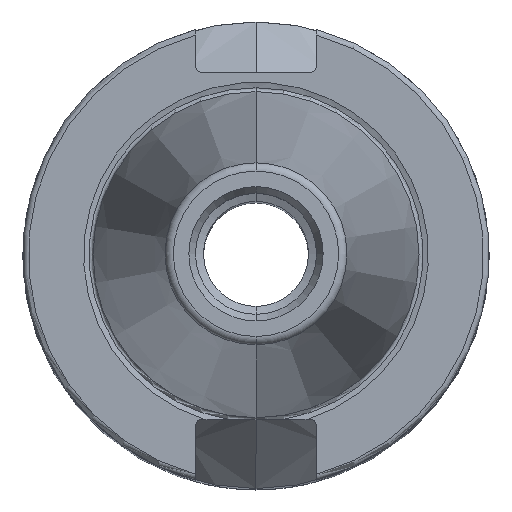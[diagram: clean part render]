
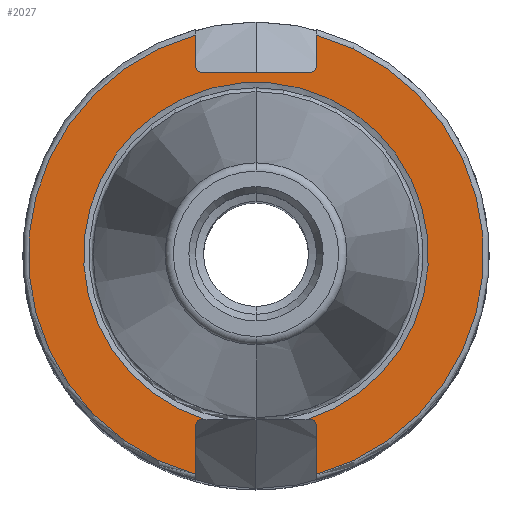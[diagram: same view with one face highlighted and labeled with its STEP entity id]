
A CAD part, top view. The second image highlights one B-rep face of the part: STEP entity #2027.
In plain terms, the highlighted planar face has unit normal (0, 0, 1).
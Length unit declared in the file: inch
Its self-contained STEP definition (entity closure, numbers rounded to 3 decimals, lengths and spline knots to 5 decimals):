
#85 = CIRCLE ( 'NONE', #4367, 0.03 ) ;
#106 = FACE_OUTER_BOUND ( 'NONE', #4018, .T. ) ;
#112 = EDGE_CURVE ( 'NONE', #1542, #4993, #1231, .T. ) ;
#188 = CARTESIAN_POINT ( 'NONE',  ( -0.3225, -1.1766, -0.125 ) ) ;
#256 = ORIENTED_EDGE ( 'NONE', *, *, #1767, .F. ) ;
#297 = EDGE_CURVE ( 'NONE', #4993, #3620, #3671, .T. ) ;
#310 = CARTESIAN_POINT ( 'NONE',  ( 0., 0., -0.125 ) ) ;
#319 = CARTESIAN_POINT ( 'NONE',  ( 0.2925, 1.0075, -0.125 ) ) ;
#401 = EDGE_CURVE ( 'NONE', #3992, #1946, #1800, .T. ) ;
#475 = DIRECTION ( 'NONE',  ( 1., 0., 0. ) ) ;
#481 = CARTESIAN_POINT ( 'NONE',  ( 0., 0., -0.125 ) ) ;
#489 = CARTESIAN_POINT ( 'NONE',  ( 0.27356, -0.8825, -0.125 ) ) ;
#492 = ORIENTED_EDGE ( 'NONE', *, *, #1841, .T. ) ;
#532 = DIRECTION ( 'NONE',  ( 0., -1., 0. ) ) ;
#564 = EDGE_CURVE ( 'NONE', #3975, #2349, #3396, .T. ) ;
#618 = DIRECTION ( 'NONE',  ( 0., 0., -1. ) ) ;
#626 = DIRECTION ( 'NONE',  ( 0., -1., 0. ) ) ;
#641 = DIRECTION ( 'NONE',  ( 0., -1., 0. ) ) ;
#655 = VERTEX_POINT ( 'NONE', #1506 ) ;
#671 = DIRECTION ( 'NONE',  ( 0., -1., 0. ) ) ;
#789 = CARTESIAN_POINT ( 'NONE',  ( 0.3225, -1.1766, -0.125 ) ) ;
#817 = CARTESIAN_POINT ( 'NONE',  ( -0.3225, 1.1766, -0.125 ) ) ;
#870 = AXIS2_PLACEMENT_3D ( 'NONE', #481, #953, #1394 ) ;
#877 = VECTOR ( 'NONE', #475, 39.37008 ) ;
#881 = VECTOR ( 'NONE', #3031, 39.37008 ) ;
#953 = DIRECTION ( 'NONE',  ( 0., 0., -1. ) ) ;
#1014 = VECTOR ( 'NONE', #2821, 39.37008 ) ;
#1174 = DIRECTION ( 'NONE',  ( 0., 1., 0. ) ) ;
#1179 = ORIENTED_EDGE ( 'NONE', *, *, #2967, .T. ) ;
#1210 = CARTESIAN_POINT ( 'NONE',  ( -0.3225, -0.9125, -0.125 ) ) ;
#1220 = CIRCLE ( 'NONE', #3362, 0.92393 ) ;
#1231 = LINE ( 'NONE', #3220, #1014 ) ;
#1293 = AXIS2_PLACEMENT_3D ( 'NONE', #1765, #3406, #532 ) ;
#1363 = DIRECTION ( 'NONE',  ( 0., 1., 0. ) ) ;
#1394 = DIRECTION ( 'NONE',  ( 0., 1., 0. ) ) ;
#1420 = LINE ( 'NONE', #2737, #3870 ) ;
#1456 = LINE ( 'NONE', #3448, #881 ) ;
#1474 = LINE ( 'NONE', #2687, #1489 ) ;
#1489 = VECTOR ( 'NONE', #626, 39.37008 ) ;
#1506 = CARTESIAN_POINT ( 'NONE',  ( 0.2925, 0.9775, -0.125 ) ) ;
#1542 = VERTEX_POINT ( 'NONE', #489 ) ;
#1631 = DIRECTION ( 'NONE',  ( 0., -1., 0. ) ) ;
#1684 = LINE ( 'NONE', #2116, #877 ) ;
#1717 = DIRECTION ( 'NONE',  ( 0., 0., -1. ) ) ;
#1734 = CARTESIAN_POINT ( 'NONE',  ( -0.2925, -0.9125, -0.125 ) ) ;
#1765 = CARTESIAN_POINT ( 'NONE',  ( 1.22, 0., -0.125 ) ) ;
#1767 = EDGE_CURVE ( 'NONE', #2349, #2665, #4375, .T. ) ;
#1800 = CIRCLE ( 'NONE', #4959, 1.22 ) ;
#1829 = EDGE_CURVE ( 'NONE', #3992, #5112, #3414, .T. ) ;
#1841 = EDGE_CURVE ( 'NONE', #3620, #2665, #1420, .T. ) ;
#1946 = VERTEX_POINT ( 'NONE', #817 ) ;
#1991 = EDGE_CURVE ( 'NONE', #2886, #655, #1684, .T. ) ;
#2000 = CIRCLE ( 'NONE', #4814, 0.03 ) ;
#2027 = ADVANCED_FACE ( 'NONE', ( #106 ), #3714, .T. ) ;
#2036 = DIRECTION ( 'NONE',  ( 0., 0., -1. ) ) ;
#2116 = CARTESIAN_POINT ( 'NONE',  ( 1.22, 0.9775, -0.125 ) ) ;
#2126 = DIRECTION ( 'NONE',  ( 0., -1., 0. ) ) ;
#2169 = CARTESIAN_POINT ( 'NONE',  ( 0.3225, -0.9125, -0.125 ) ) ;
#2171 = CARTESIAN_POINT ( 'NONE',  ( -0.27356, -0.8825, -0.125 ) ) ;
#2183 = CIRCLE ( 'NONE', #3039, 0.03 ) ;
#2224 = CARTESIAN_POINT ( 'NONE',  ( -0.2925, 0.9775, -0.125 ) ) ;
#2339 = VECTOR ( 'NONE', #1363, 39.37008 ) ;
#2349 = VERTEX_POINT ( 'NONE', #3506 ) ;
#2363 = EDGE_CURVE ( 'NONE', #4459, #1542, #1220, .T. ) ;
#2380 = CARTESIAN_POINT ( 'NONE',  ( 0., 0., -0.125 ) ) ;
#2390 = CARTESIAN_POINT ( 'NONE',  ( 0.2925, -0.8825, -0.125 ) ) ;
#2665 = VERTEX_POINT ( 'NONE', #789 ) ;
#2687 = CARTESIAN_POINT ( 'NONE',  ( -0.3225, 0., -0.125 ) ) ;
#2714 = ORIENTED_EDGE ( 'NONE', *, *, #3853, .T. ) ;
#2737 = CARTESIAN_POINT ( 'NONE',  ( 0.3225, 0., -0.125 ) ) ;
#2756 = CARTESIAN_POINT ( 'NONE',  ( 0.2925, -0.9125, -0.125 ) ) ;
#2821 = DIRECTION ( 'NONE',  ( 1., 0., 0. ) ) ;
#2845 = ORIENTED_EDGE ( 'NONE', *, *, #112, .T. ) ;
#2886 = VERTEX_POINT ( 'NONE', #2224 ) ;
#2967 = EDGE_CURVE ( 'NONE', #3975, #655, #85, .T. ) ;
#2969 = CARTESIAN_POINT ( 'NONE',  ( -0.2925, 1.0075, -0.125 ) ) ;
#3031 = DIRECTION ( 'NONE',  ( 1., 0., 0. ) ) ;
#3039 = AXIS2_PLACEMENT_3D ( 'NONE', #2969, #1717, #2126 ) ;
#3101 = VECTOR ( 'NONE', #3419, 39.37008 ) ;
#3220 = CARTESIAN_POINT ( 'NONE',  ( 1.22, -0.8825, -0.125 ) ) ;
#3249 = ORIENTED_EDGE ( 'NONE', *, *, #564, .F. ) ;
#3307 = ORIENTED_EDGE ( 'NONE', *, *, #297, .T. ) ;
#3318 = DIRECTION ( 'NONE',  ( 0., 0., -1. ) ) ;
#3362 = AXIS2_PLACEMENT_3D ( 'NONE', #2380, #4053, #1174 ) ;
#3373 = DIRECTION ( 'NONE',  ( 0., 0., -1. ) ) ;
#3396 = LINE ( 'NONE', #3754, #3101 ) ;
#3406 = DIRECTION ( 'NONE',  ( 0., 0., 1. ) ) ;
#3414 = LINE ( 'NONE', #5034, #2339 ) ;
#3419 = DIRECTION ( 'NONE',  ( 0., 1., 0. ) ) ;
#3448 = CARTESIAN_POINT ( 'NONE',  ( 1.22, -0.8825, -0.125 ) ) ;
#3503 = EDGE_CURVE ( 'NONE', #5112, #5062, #2000, .T. ) ;
#3506 = CARTESIAN_POINT ( 'NONE',  ( 0.3225, 1.1766, -0.125 ) ) ;
#3592 = EDGE_CURVE ( 'NONE', #5062, #4459, #1456, .T. ) ;
#3615 = VERTEX_POINT ( 'NONE', #4179 ) ;
#3620 = VERTEX_POINT ( 'NONE', #2169 ) ;
#3671 = CIRCLE ( 'NONE', #4871, 0.03 ) ;
#3712 = ORIENTED_EDGE ( 'NONE', *, *, #1991, .F. ) ;
#3714 = PLANE ( 'NONE',  #1293 ) ;
#3754 = CARTESIAN_POINT ( 'NONE',  ( 0.3225, 0., -0.125 ) ) ;
#3853 = EDGE_CURVE ( 'NONE', #2886, #3615, #2183, .T. ) ;
#3870 = VECTOR ( 'NONE', #671, 39.37008 ) ;
#3871 = ORIENTED_EDGE ( 'NONE', *, *, #401, .F. ) ;
#3975 = VERTEX_POINT ( 'NONE', #5089 ) ;
#3991 = ORIENTED_EDGE ( 'NONE', *, *, #1829, .T. ) ;
#3992 = VERTEX_POINT ( 'NONE', #188 ) ;
#4010 = EDGE_CURVE ( 'NONE', #1946, #3615, #1474, .T. ) ;
#4018 = EDGE_LOOP ( 'NONE', ( #4635, #3871, #3991, #4361, #4084, #5284, #2845, #3307, #492, #256, #3249, #1179, #3712, #2714 ) ) ;
#4053 = DIRECTION ( 'NONE',  ( 0., 0., -1. ) ) ;
#4084 = ORIENTED_EDGE ( 'NONE', *, *, #3592, .T. ) ;
#4179 = CARTESIAN_POINT ( 'NONE',  ( -0.3225, 1.0075, -0.125 ) ) ;
#4361 = ORIENTED_EDGE ( 'NONE', *, *, #3503, .T. ) ;
#4367 = AXIS2_PLACEMENT_3D ( 'NONE', #319, #2036, #1631 ) ;
#4375 = CIRCLE ( 'NONE', #870, 1.22 ) ;
#4459 = VERTEX_POINT ( 'NONE', #2171 ) ;
#4635 = ORIENTED_EDGE ( 'NONE', *, *, #4010, .F. ) ;
#4741 = CARTESIAN_POINT ( 'NONE',  ( -0.2925, -0.8825, -0.125 ) ) ;
#4814 = AXIS2_PLACEMENT_3D ( 'NONE', #1734, #3373, #4998 ) ;
#4871 = AXIS2_PLACEMENT_3D ( 'NONE', #2756, #618, #641 ) ;
#4884 = DIRECTION ( 'NONE',  ( 0., 1., 0. ) ) ;
#4959 = AXIS2_PLACEMENT_3D ( 'NONE', #310, #3318, #4884 ) ;
#4993 = VERTEX_POINT ( 'NONE', #2390 ) ;
#4998 = DIRECTION ( 'NONE',  ( 0., -1., 0. ) ) ;
#5034 = CARTESIAN_POINT ( 'NONE',  ( -0.3225, 0., -0.125 ) ) ;
#5062 = VERTEX_POINT ( 'NONE', #4741 ) ;
#5089 = CARTESIAN_POINT ( 'NONE',  ( 0.3225, 1.0075, -0.125 ) ) ;
#5112 = VERTEX_POINT ( 'NONE', #1210 ) ;
#5284 = ORIENTED_EDGE ( 'NONE', *, *, #2363, .T. ) ;
